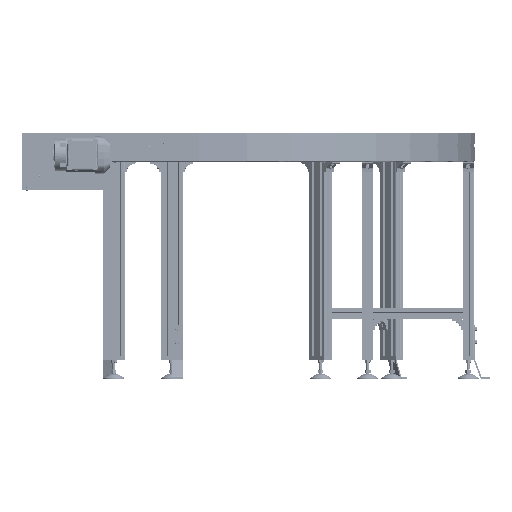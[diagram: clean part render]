
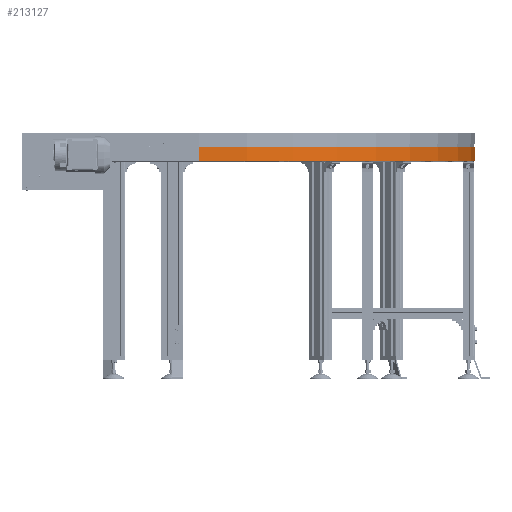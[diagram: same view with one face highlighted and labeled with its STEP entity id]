
A CAD part, front view. The second image highlights one B-rep face of the part: STEP entity #213127.
In plain terms, the highlighted cylindrical face has radius 1015 mm (diameter 2030 mm), a partial arc.
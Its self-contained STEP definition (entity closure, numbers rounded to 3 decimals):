
#21181=LINE('',#353792,#40929);
#21220=LINE('',#353933,#40968);
#21221=LINE('',#353936,#40969);
#21453=LINE('',#354693,#41201);
#40929=VECTOR('',#285205,4.45);
#40968=VECTOR('',#285364,4.45);
#40969=VECTOR('',#285367,49.);
#41201=VECTOR('',#286361,49.);
#51476=CYLINDRICAL_SURFACE('',#231266,1015.);
#63481=FACE_OUTER_BOUND('',#75875,.T.);
#75875=EDGE_LOOP('',(#187932,#187933,#187934,#187935,#187936,#187937));
#83919=CIRCLE('',#231264,1015.);
#83921=CIRCLE('',#231267,1015.);
#88344=VERTEX_POINT('',#303276);
#102370=VERTEX_POINT('',#353775);
#102373=VERTEX_POINT('',#353783);
#102413=VERTEX_POINT('',#353915);
#102417=VERTEX_POINT('',#353935);
#102561=VERTEX_POINT('',#354688);
#130837=EDGE_CURVE('',#102373,#102370,#21181,.T.);
#130902=EDGE_CURVE('',#102413,#88344,#21220,.T.);
#130903=EDGE_CURVE('',#102417,#102413,#21221,.T.);
#131353=EDGE_CURVE('',#102561,#102417,#83919,.T.);
#131355=EDGE_CURVE('',#102370,#88344,#83921,.T.);
#131356=EDGE_CURVE('',#102561,#102373,#21453,.T.);
#187932=ORIENTED_EDGE('',*,*,#130903,.T.);
#187933=ORIENTED_EDGE('',*,*,#130902,.T.);
#187934=ORIENTED_EDGE('',*,*,#131355,.F.);
#187935=ORIENTED_EDGE('',*,*,#130837,.F.);
#187936=ORIENTED_EDGE('',*,*,#131356,.F.);
#187937=ORIENTED_EDGE('',*,*,#131353,.T.);
#213127=ADVANCED_FACE('',(#63481),#51476,.T.);
#231264=AXIS2_PLACEMENT_3D('',#354689,#286353,#286354);
#231266=AXIS2_PLACEMENT_3D('',#354691,#286357,#286358);
#231267=AXIS2_PLACEMENT_3D('',#354692,#286359,#286360);
#285205=DIRECTION('',(0.,0.,1.));
#285364=DIRECTION('',(0.,0.,1.));
#285367=DIRECTION('',(0.,0.,1.));
#286353=DIRECTION('center_axis',(0.,0.,
1.));
#286354=DIRECTION('ref_axis',(0.,-1.,0.));
#286357=DIRECTION('center_axis',(0.,0.,
1.));
#286358=DIRECTION('ref_axis',(0.,-1.,0.));
#286359=DIRECTION('center_axis',(0.,0.,
1.));
#286360=DIRECTION('ref_axis',(0.,-1.,0.));
#286361=DIRECTION('',(0.,0.,1.));
#303276=CARTESIAN_POINT('',(556.,207.5,54.45));
#353775=CARTESIAN_POINT('',(556.,-1822.5,54.45));
#353783=CARTESIAN_POINT('',(556.,-1822.5,50.));
#353792=CARTESIAN_POINT('',(556.,-1822.5,1.));
#353915=CARTESIAN_POINT('',(556.,207.5,50.));
#353933=CARTESIAN_POINT('',(556.,207.5,1.));
#353935=CARTESIAN_POINT('',(556.,207.5,1.));
#353936=CARTESIAN_POINT('',(556.,207.5,1.));
#354688=CARTESIAN_POINT('',(556.,-1822.5,1.));
#354689=CARTESIAN_POINT('Origin',(556.,-807.5,1.));
#354691=CARTESIAN_POINT('Origin',(556.,-807.5,27.725));
#354692=CARTESIAN_POINT('Origin',(556.,-807.5,54.45));
#354693=CARTESIAN_POINT('',(556.,-1822.5,1.));
